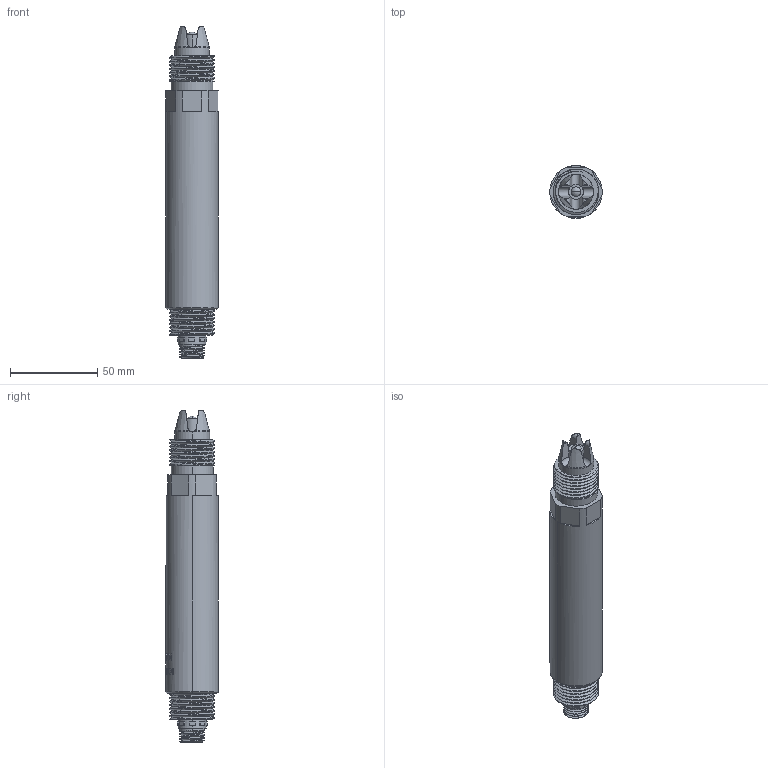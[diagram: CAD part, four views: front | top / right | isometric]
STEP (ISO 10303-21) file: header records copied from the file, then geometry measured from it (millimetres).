
FILE_DESCRIPTION((''),'2;1');
FILE_NAME('ASM0005_ASM','2025-12-26T10:34:59',('28740194'),(''),'CREO PARAMETRIC BY PTC INC, 2024063','CREO PARAMETRIC BY PTC INC, 2024063','');
FILE_SCHEMA(('CONFIG_CONTROL_DESIGN'));
Length unit declared in the file: millimetre
Products named in the file (6): KWS-652; 222000; 0001; 0002; 260_ASM; ASM0005_ASM
Assembly tree (6 placements, depth 3):
  ASM0005_ASM
    KWS-652
    222000
    0001
    260_ASM
      0002
      222000
Bounding box: 30 x 30.19 x 190 mm (x, y, z)
Volume: 108787.9 mm3; surface area: 22917.2 mm2
Topology: 5 solids, 5 shells, 546 faces, 1510 edges, 1001 vertices
Faces by surface type: bspline 368, cylinder 84, plane 82, torus 6, cone 4, sphere 2
Entity records: 24929 total; most frequent: CARTESIAN_POINT 14168, ORIENTED_EDGE 2886, EDGE_CURVE 1443, DIRECTION 1083, VERTEX_POINT 959, B_SPLINE_CURVE_WITH_KNOTS 945, EDGE_LOOP 550, FACE_OUTER_BOUND 521
